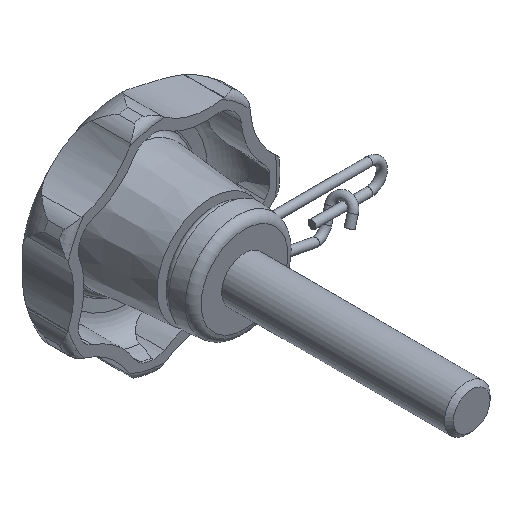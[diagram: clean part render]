
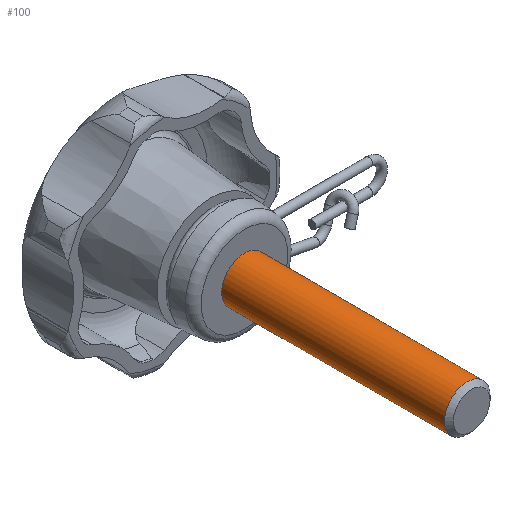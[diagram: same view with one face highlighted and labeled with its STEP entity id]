
A CAD part, isometric view. The second image highlights one B-rep face of the part: STEP entity #100.
In plain terms, the highlighted cylindrical face has radius 4 mm (diameter 8 mm), a full revolution.
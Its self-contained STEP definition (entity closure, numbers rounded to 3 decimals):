
#100 = ADVANCED_FACE( '', ( #250, #251 ), #252, .T. );
#250 = FACE_OUTER_BOUND( '', #507, .T. );
#251 = FACE_OUTER_BOUND( '', #508, .T. );
#252 = CYLINDRICAL_SURFACE( '', #509, 4. );
#507 = EDGE_LOOP( '', ( #881 ) );
#508 = EDGE_LOOP( '', ( #882 ) );
#509 = AXIS2_PLACEMENT_3D( '', #883, #884, #885 );
#881 = ORIENTED_EDGE( '', *, *, #1696, .F. );
#882 = ORIENTED_EDGE( '', *, *, #1697, .T. );
#883 = CARTESIAN_POINT( '', ( 0., -40., 0. ) );
#884 = DIRECTION( '', ( 0., 1., 0. ) );
#885 = DIRECTION( '', ( 0., 0., -1. ) );
#1696 = EDGE_CURVE( '', #2053, #2053, #2054, .T. );
#1697 = EDGE_CURVE( '', #2055, #2055, #2056, .T. );
#2053 = VERTEX_POINT( '', #2914 );
#2054 = CIRCLE( '', #2915, 4. );
#2055 = VERTEX_POINT( '', #2916 );
#2056 = CIRCLE( '', #2917, 4. );
#2914 = CARTESIAN_POINT( '', ( 0., -39.233, -4. ) );
#2915 = AXIS2_PLACEMENT_3D( '', #3951, #3952, #3953 );
#2916 = CARTESIAN_POINT( '', ( 0., 0., -4. ) );
#2917 = AXIS2_PLACEMENT_3D( '', #3954, #3955, #3956 );
#3951 = CARTESIAN_POINT( '', ( 0., -39.233, 0. ) );
#3952 = DIRECTION( '', ( 0., -1., 0. ) );
#3953 = DIRECTION( '', ( 0., 0., -1. ) );
#3954 = CARTESIAN_POINT( '', ( 0., 0., 0. ) );
#3955 = DIRECTION( '', ( 0., -1., 0. ) );
#3956 = DIRECTION( '', ( 0., 0., -1. ) );
